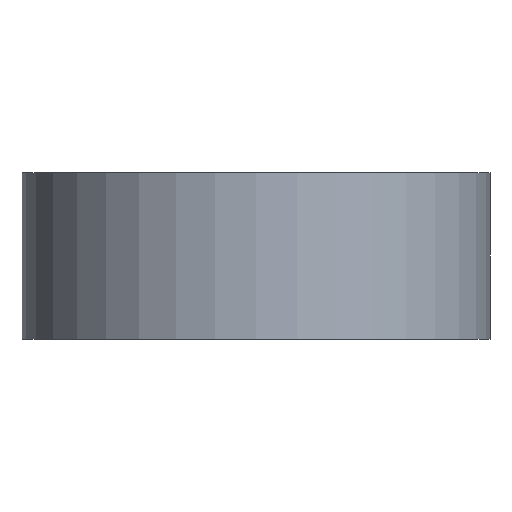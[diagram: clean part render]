
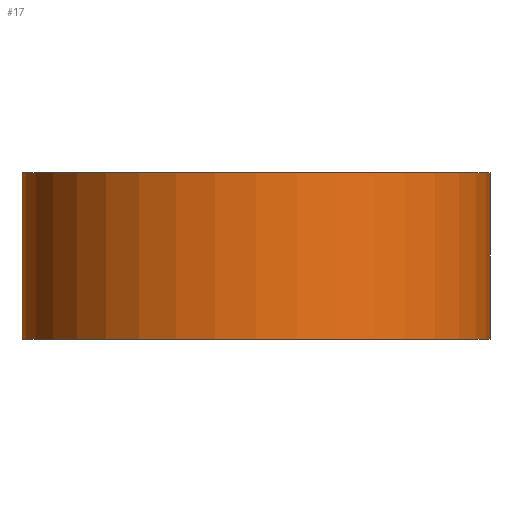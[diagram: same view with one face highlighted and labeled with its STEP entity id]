
A CAD part, front view. The second image highlights one B-rep face of the part: STEP entity #17.
In plain terms, the highlighted cylindrical face has radius 19 mm (diameter 38 mm), a full revolution.
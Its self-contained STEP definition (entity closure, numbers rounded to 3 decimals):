
#17 = ADVANCED_FACE('',(#18),#32,.T.);
#18 = FACE_BOUND('',#19,.F.);
#19 = EDGE_LOOP('',(#20,#50,#77,#78));
#20 = ORIENTED_EDGE('',*,*,#21,.T.);
#21 = EDGE_CURVE('',#22,#24,#26,.T.);
#22 = VERTEX_POINT('',#23);
#23 = CARTESIAN_POINT('',(0.,19.,-20.));
#24 = VERTEX_POINT('',#25);
#25 = CARTESIAN_POINT('',(0.,19.,-6.5));
#26 = SEAM_CURVE('',#27,(#31,#43),.PCURVE_S1.);
#27 = LINE('',#28,#29);
#28 = CARTESIAN_POINT('',(0.,19.,-20.));
#29 = VECTOR('',#30,1.);
#30 = DIRECTION('',(0.,0.,1.));
#31 = PCURVE('',#32,#37);
#32 = CYLINDRICAL_SURFACE('',#33,19.);
#33 = AXIS2_PLACEMENT_3D('',#34,#35,#36);
#34 = CARTESIAN_POINT('',(0.,0.,-20.));
#35 = DIRECTION('',(-0.,0.,-1.));
#36 = DIRECTION('',(0.,1.,0.));
#37 = DEFINITIONAL_REPRESENTATION('',(#38),#42);
#38 = LINE('',#39,#40);
#39 = CARTESIAN_POINT('',(-0.,0.));
#40 = VECTOR('',#41,1.);
#41 = DIRECTION('',(-0.,-1.));
#42 = ( GEOMETRIC_REPRESENTATION_CONTEXT(2) 
PARAMETRIC_REPRESENTATION_CONTEXT() REPRESENTATION_CONTEXT('2D SPACE',''
  ) );
#43 = PCURVE('',#32,#44);
#44 = DEFINITIONAL_REPRESENTATION('',(#45),#49);
#45 = LINE('',#46,#47);
#46 = CARTESIAN_POINT('',(-6.283,0.));
#47 = VECTOR('',#48,1.);
#48 = DIRECTION('',(-0.,-1.));
#49 = ( GEOMETRIC_REPRESENTATION_CONTEXT(2) 
PARAMETRIC_REPRESENTATION_CONTEXT() REPRESENTATION_CONTEXT('2D SPACE',''
  ) );
#50 = ORIENTED_EDGE('',*,*,#51,.T.);
#51 = EDGE_CURVE('',#24,#24,#52,.T.);
#52 = SURFACE_CURVE('',#53,(#58,#65),.PCURVE_S1.);
#53 = CIRCLE('',#54,19.);
#54 = AXIS2_PLACEMENT_3D('',#55,#56,#57);
#55 = CARTESIAN_POINT('',(0.,0.,-6.5));
#56 = DIRECTION('',(0.,-0.,1.));
#57 = DIRECTION('',(0.,1.,0.));
#58 = PCURVE('',#32,#59);
#59 = DEFINITIONAL_REPRESENTATION('',(#60),#64);
#60 = LINE('',#61,#62);
#61 = CARTESIAN_POINT('',(-0.,-13.5));
#62 = VECTOR('',#63,1.);
#63 = DIRECTION('',(-1.,0.));
#64 = ( GEOMETRIC_REPRESENTATION_CONTEXT(2) 
PARAMETRIC_REPRESENTATION_CONTEXT() REPRESENTATION_CONTEXT('2D SPACE',''
  ) );
#65 = PCURVE('',#66,#71);
#66 = PLANE('',#67);
#67 = AXIS2_PLACEMENT_3D('',#68,#69,#70);
#68 = CARTESIAN_POINT('',(0.,0.,-6.5)
  );
#69 = DIRECTION('',(0.,0.,1.));
#70 = DIRECTION('',(1.,0.,-0.));
#71 = DEFINITIONAL_REPRESENTATION('',(#72),#76);
#72 = CIRCLE('',#73,19.);
#73 = AXIS2_PLACEMENT_2D('',#74,#75);
#74 = CARTESIAN_POINT('',(0.,0.));
#75 = DIRECTION('',(0.,1.));
#76 = ( GEOMETRIC_REPRESENTATION_CONTEXT(2) 
PARAMETRIC_REPRESENTATION_CONTEXT() REPRESENTATION_CONTEXT('2D SPACE',''
  ) );
#77 = ORIENTED_EDGE('',*,*,#21,.F.);
#78 = ORIENTED_EDGE('',*,*,#79,.F.);
#79 = EDGE_CURVE('',#22,#22,#80,.T.);
#80 = SURFACE_CURVE('',#81,(#86,#93),.PCURVE_S1.);
#81 = CIRCLE('',#82,19.);
#82 = AXIS2_PLACEMENT_3D('',#83,#84,#85);
#83 = CARTESIAN_POINT('',(0.,0.,-20.));
#84 = DIRECTION('',(0.,-0.,1.));
#85 = DIRECTION('',(0.,1.,0.));
#86 = PCURVE('',#32,#87);
#87 = DEFINITIONAL_REPRESENTATION('',(#88),#92);
#88 = LINE('',#89,#90);
#89 = CARTESIAN_POINT('',(-0.,0.));
#90 = VECTOR('',#91,1.);
#91 = DIRECTION('',(-1.,0.));
#92 = ( GEOMETRIC_REPRESENTATION_CONTEXT(2) 
PARAMETRIC_REPRESENTATION_CONTEXT() REPRESENTATION_CONTEXT('2D SPACE',''
  ) );
#93 = PCURVE('',#94,#99);
#94 = PLANE('',#95);
#95 = AXIS2_PLACEMENT_3D('',#96,#97,#98);
#96 = CARTESIAN_POINT('',(0.,0.,-20.)
  );
#97 = DIRECTION('',(0.,0.,1.));
#98 = DIRECTION('',(1.,0.,-0.));
#99 = DEFINITIONAL_REPRESENTATION('',(#100),#104);
#100 = CIRCLE('',#101,19.);
#101 = AXIS2_PLACEMENT_2D('',#102,#103);
#102 = CARTESIAN_POINT('',(0.,0.));
#103 = DIRECTION('',(0.,1.));
#104 = ( GEOMETRIC_REPRESENTATION_CONTEXT(2) 
PARAMETRIC_REPRESENTATION_CONTEXT() REPRESENTATION_CONTEXT('2D SPACE',''
  ) );
